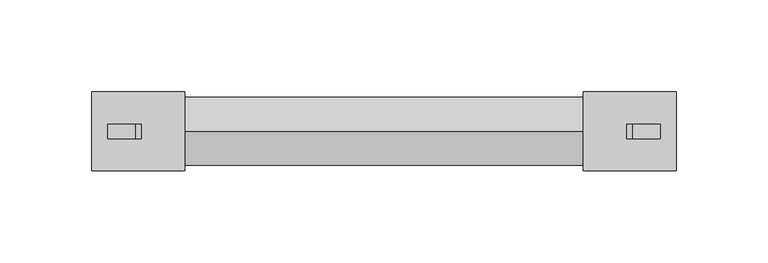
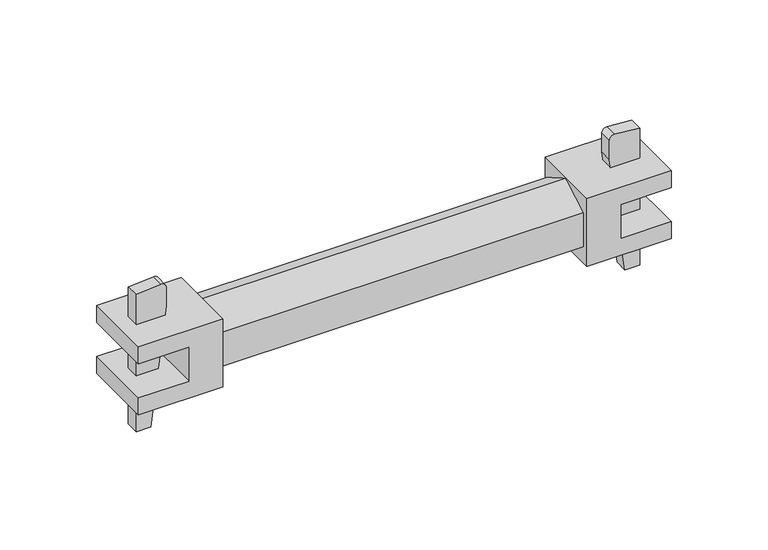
"""IFC4 building model written with IfcOpenShell, lengths in millimetres: proxy geometry, AK_アルバトロスＡＫ布材L=360_軽 : AK_アルバトロスＡＫ布材L=360_軽."""

from ifc_helpers import new_model, si_unit, point, frame, frame_2d, origin, place, context, project, spatial, polyline, circle_curve, trimmed, segment, composite_curve, outline, extrude, source, transform, mapped, element, save


def generic_models_6867d717(model_context):
    return source(origin(), model_context, "Body", "SweptSolid", [
        extrude(outline(polyline([(-10.75, 21.0591948), (-21.5, 21.0591948), (-21.5, 71.4999948), (21.5, 71.4999948), (21.5, 21.0591948), (10.75, 21.0591948), (10.75, 51.2999948), (-10.75, 51.2999948), (-10.75, 21.0591948)])), frame((0.0, -21.5, 0.0), z_axis=(0.0, 1.0, 0.0), x_axis=(0.0, 0.0, 1.0)), (0.0, 0.0, 1.0), 43.0),
        extrude(outline(composite_curve([segment(trimmed(circle_curve(frame_2d((39.0692, 44.7999948)), 3.0), [point((39.0692, 47.7999948))], [point((42.0590201, 44.5530624))], False, "CARTESIAN"), True, "CONTINUOUS"), segment(polyline([(42.0590201, 44.5530624), (40.7682926, 29.7999948), (-45.68165, 29.7999948), (-45.68165, 38.5388196), (27.3200065, 47.7999948), (39.0692, 47.7999948)]), True, "CONTINUOUS")], self_intersect=False)), frame((0.0, -4.0, 0.0), z_axis=(0.0, 1.0, 0.0), x_axis=(0.0, 0.0, 1.0)), (0.0, 0.0, 1.0), 8.0),
        extrude(outline(polyline([(-10.75, 338.9407948), (-10.75, 308.6999948), (10.75, 308.6999948), (10.75, 338.9407948), (21.5, 338.9407948), (21.5, 288.4999948), (-21.5, 288.4999948), (-21.5, 338.9407948), (-10.75, 338.9407948)])), frame((0.0, -21.5, 0.0), z_axis=(0.0, 1.0, 0.0), x_axis=(0.0, 0.0, 1.0)), (0.0, 0.0, 1.0), 43.0),
        extrude(outline(composite_curve([segment(polyline([(39.0692, 312.1999948), (27.3200065, 312.1999948), (-45.68165, 321.4611701), (-45.68165, 330.1999948), (40.7682926, 330.1999948), (42.0590201, 315.4469273)]), True, "CONTINUOUS"), segment(trimmed(circle_curve(frame_2d((39.0692, 315.1999948)), 3.0), [point((42.0590201, 315.4469273))], [point((39.0692, 312.1999948))], False, "CARTESIAN"), True, "CONTINUOUS")], self_intersect=False)), frame((0.0, -4.0, 0.0), z_axis=(0.0, 1.0, 0.0), x_axis=(0.0, 0.0, 1.0)), (0.0, 0.0, 1.0), 8.0),
        extrude(outline(polyline([(-18.4896424, 10.675), (0.0, 21.35), (18.4896424, 10.675), (18.4896424, -10.675), (0.0, -21.35), (-18.4896424, -10.675), (-18.4896424, 10.675)])), frame((71.4999948, 0.0, 0.0), z_axis=(1.0, 0.0, 0.0), x_axis=(0.0, 1.0, 0.0)), (0.0, 0.0, 1.0), 217.0),
    ])


if __name__ == "__main__":
    model = new_model("IFC4")
    model_context = context("Model", 3, world=origin())
    ifc_project = project(units=[si_unit("LENGTHUNIT", "METRE", prefix="MILLI")], contexts=[model_context])
    site = spatial("IfcSite", under=ifc_project)
    building = spatial("IfcBuilding", under=site)
    placement = place(None, origin())
    generic_models_shape = generic_models_6867d717(model_context)
    element("IfcBuildingElementProxy", 1, Name="AK_アルバトロスＡＫ布材L=360_軽 : AK_アルバトロスＡＫ布材L=360_軽", ObjectType="AK_アルバトロスＡＫ布材L=360_軽 : AK_アルバトロスＡＫ布材L=360_軽", at=placement, inside=building, context=model_context, shape_type="MappedRepresentation", body=[
        mapped(generic_models_shape, transform((0.0, 0.0, 0.0), x_axis=(1.0, 0.0, 0.0), y_axis=(0.0, 1.0, 0.0), z_axis=(0.0, 0.0, 1.0))),
    ])
    save(model, "model.ifc")
